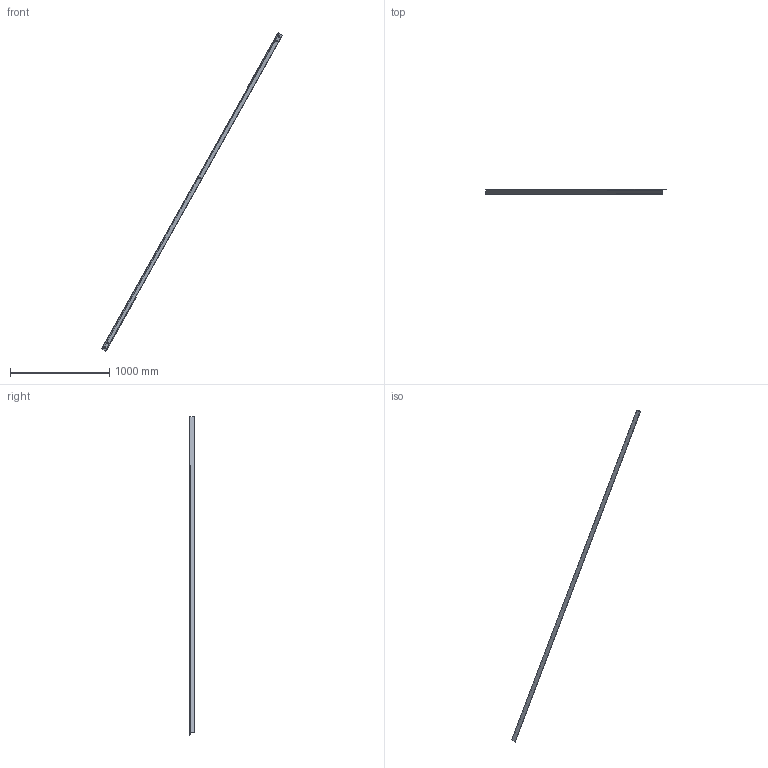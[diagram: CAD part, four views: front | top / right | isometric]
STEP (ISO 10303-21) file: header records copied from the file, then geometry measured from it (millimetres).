
FILE_DESCRIPTION (( 'STEP AP214' ), '1' );
FILE_NAME ('CCJ029-REP.054 - CONTREVENTEMENT COURT C4-C5.STEP', '2024-01-10T14:43:28', ( '' ), ( '' ), 'SwSTEP 2.0', 'SolidWorks 2021', '' );
FILE_SCHEMA (( 'AUTOMOTIVE_DESIGN' ));
Length unit declared in the file: millimetre
Products named in the file (1): CCJ029-REP.054 - CONTREVENTEMENT COURT C4-C5
Bounding box: 1824.18 x 50 x 3211.53 mm (x, y, z)
Volume: 1749467.1 mm3; surface area: 708739.8 mm2
Topology: 1 solids, 1 shells, 21 faces, 57 edges, 38 vertices
Faces by surface type: cylinder 13, plane 8
Entity records: 731 total; most frequent: DIRECTION 127, CARTESIAN_POINT 117, ORIENTED_EDGE 114, EDGE_CURVE 57, AXIS2_PLACEMENT_3D 48, VERTEX_POINT 38, EDGE_LOOP 31, VECTOR 31
